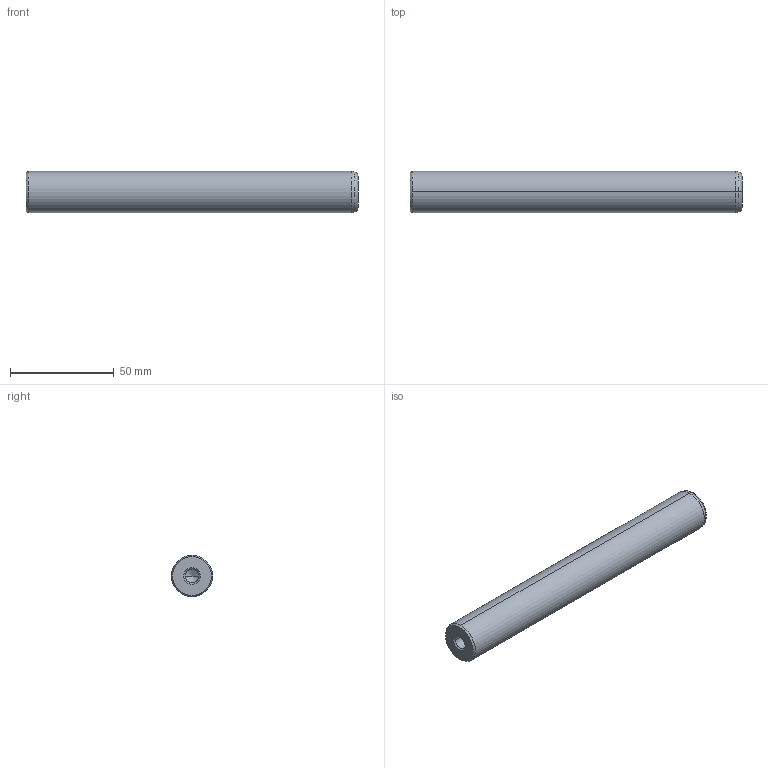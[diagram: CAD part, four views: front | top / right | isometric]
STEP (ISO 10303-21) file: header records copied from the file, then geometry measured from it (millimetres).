
FILE_DESCRIPTION(('CATIA V5 STEP Exchange'),'2;1');
FILE_NAME('C:\Users\Utente\Desktop\IO LAVORO\3D X SITO CF\X SITO\720\720-20x160.stp','2021-01-01T12:59:40+00:00',('none'),('none'),'CATIA Version 5 Release 20 GA (IN-10)','CATIA V5 STEP AP203','none');
FILE_SCHEMA(('CONFIG_CONTROL_DESIGN'));
Length unit declared in the file: millimetre
Products named in the file (1): 720-20x160
Bounding box: 160 x 20 x 20 mm (x, y, z)
Volume: 48428.3 mm3; surface area: 11574.7 mm2
Topology: 1 solids, 1 shells, 22 faces, 56 edges, 34 vertices
Faces by surface type: cone 12, cylinder 6, plane 2, torus 2
Entity records: 749 total; most frequent: CARTESIAN_POINT 210, ORIENTED_EDGE 104, DIRECTION 89, EDGE_CURVE 52, AXIS2_PLACEMENT_3D 50, VERTEX_POINT 34, CIRCLE 27, EDGE_LOOP 24
